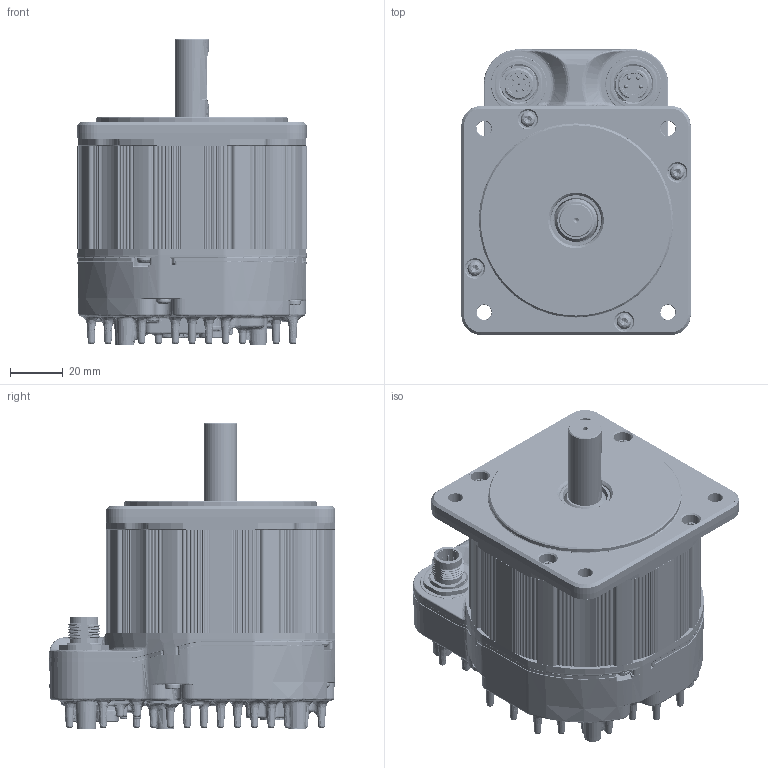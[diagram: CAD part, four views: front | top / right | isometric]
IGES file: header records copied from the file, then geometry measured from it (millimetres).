
Start section: SolidWorks IGES file using analytic representation for surfaces
Global section: file name: C:\TeknicPDM\EtherPath CPM-S\EtherPath CPM-S Customer Files\CPM-S Customer Models\CPMS 341x.IGS; native system: SolidWorks 2020; preprocessor: SolidWorks 2020; author: mike_berezny; date: 230808.154827; units: inch
Bounding box: 86.87 x 108.59 x 116.16 mm (x, y, z)
Surface area: 165364.8 mm2 (no closed solid volume)
Topology: 0 solids, 0 shells, 10843 faces, 111156 edges, 110565 vertices
Faces by surface type: bspline 5452, revolution 5391
